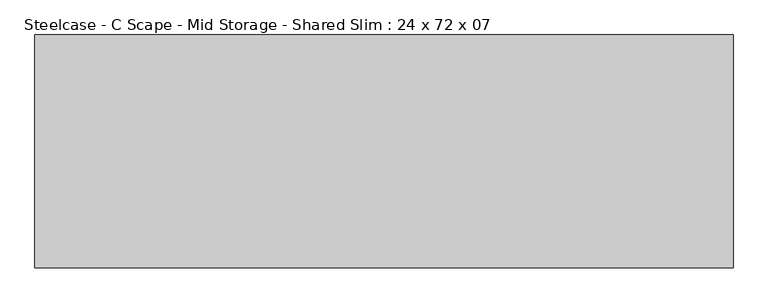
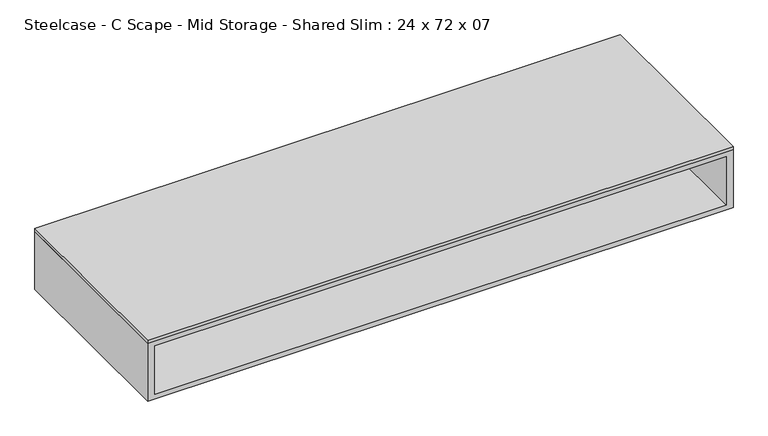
"""IFC4 building model written with IfcOpenShell, lengths in millimetres: furniture geometry, Steelcase - C Scape - Mid Storage - Shared Slim : 24 x 72 x 07."""

import ifcopenshell
import ifcopenshell.guid

model = None  # the IFC model being written
_history = None  # IfcOwnerHistory: only IFC2X3 demands one
_inside = {}  # id of a spatial element -> (the spatial element, [elements in it])
_under = {}  # id of a project, library or spatial element -> (it, [spatial elements below it])
_declared = {}  # id of a project -> (the project, [libraries it declares])
_typed = {}  # id of a type object -> (the type object, [elements of that type])
_made_of = {}  # id of a material, layer set ... -> (it, [elements and type objects made of it])


def new_model(schema):
    """Start an empty IFC model of exactly this schema.

    Asked for "IFC4X3", IfcOpenShell would pick the latest addendum, in which some entities
    have other attributes; the version numbers below select the first issue.
    IFC2X3 requires an IfcOwnerHistory on every rooted entity: one is made here for all.
    """
    global model, _history
    if schema == "IFC4X3":
        model = ifcopenshell.file(schema_version=(4, 3, 0, 0))
    else:
        model = ifcopenshell.file(schema=schema)
    _inside.clear()
    _under.clear()
    _declared.clear()
    _typed.clear()
    _made_of.clear()
    _history = None
    if model.schema == "IFC2X3":
        org = make("IfcOrganization", Name="unknown")
        user = make(
            "IfcPersonAndOrganization",
            ThePerson=make("IfcPerson", FamilyName="unknown"),
            TheOrganization=org,
        )
        app = make(
            "IfcApplication",
            ApplicationDeveloper=org,
            Version="unknown",
            ApplicationFullName="unknown",
            ApplicationIdentifier="unknown",
        )
        _history = make(
            "IfcOwnerHistory",
            OwningUser=user,
            OwningApplication=app,
            ChangeAction="ADDED",
            CreationDate=0,
        )
    return model


def make(cls, **values):
    """One entity of the class cls with the attributes given. An attribute that is None is left unset."""
    return model.create_entity(
        cls, **{name: value for name, value in values.items() if value is not None}
    )


def rooted(cls, **values):
    """An entity with a GlobalId (a new one), such as an element, a storey or a relation."""
    return make(cls, GlobalId=ifcopenshell.guid.new(), OwnerHistory=_history, **values)


def si_unit(unit_type, name, prefix=None):
    """IfcSIUnit, for example si_unit("LENGTHUNIT", "METRE", prefix="MILLI")."""
    return make("IfcSIUnit", UnitType=unit_type, Prefix=prefix, Name=name)


def assignment(units):
    """IfcUnitAssignment: the units of a project."""
    return None if units is None else make("IfcUnitAssignment", Units=units)


def point(xyz):
    """IfcCartesianPoint."""
    return None if xyz is None else make("IfcCartesianPoint", Coordinates=xyz)


def direction(xyz):
    """IfcDirection."""
    return None if xyz is None else make("IfcDirection", DirectionRatios=xyz)


def frame(location, z_axis=None, x_axis=None):
    """IfcAxis2Placement3D, a coordinate frame: its origin and axes. An axis left out is left unset."""
    return make(
        "IfcAxis2Placement3D",
        Location=point(location),
        Axis=direction(z_axis),
        RefDirection=direction(x_axis),
    )


def origin():
    """The frame at (0, 0, 0) with its axes left unset."""
    return frame((0.0, 0.0, 0.0))


def place(relative_to, where):
    """IfcLocalPlacement: puts the frame where relative to a parent placement (None: the world)."""
    return make(
        "IfcLocalPlacement", PlacementRelTo=relative_to, RelativePlacement=where
    )


def context(
    kind, dimensions, precision=None, world=None, true_north=None, identifier=None
):
    """IfcGeometricRepresentationContext, for example the 3D "Model" context."""
    return make(
        "IfcGeometricRepresentationContext",
        ContextIdentifier=identifier,
        ContextType=kind,
        CoordinateSpaceDimension=dimensions,
        Precision=precision,
        WorldCoordinateSystem=world,
        TrueNorth=true_north,
    )


def project(units=None, contexts=None):
    """IfcProject with its units and contexts."""
    return rooted(
        "IfcProject",
        Name="project",
        RepresentationContexts=contexts,
        UnitsInContext=assignment(units),
    )


def spatial(cls, under=None, at=None, **own):
    """A site, building, storey or space (cls), placed at a placement, below another one or the project."""
    s = rooted(cls, ObjectPlacement=at, **own)
    if under is not None:
        _under.setdefault(under.id(), (under, []))[1].append(s)
    return s


def polyline(points):
    """IfcPolyline through the points."""
    return make("IfcPolyline", Points=[point(p) for p in points])


def outline(outer, holes=None, kind="AREA"):
    """IfcArbitraryClosedProfileDef: a profile drawn as a closed curve; with holes, ...WithVoids."""
    if holes is None:
        return make("IfcArbitraryClosedProfileDef", ProfileType=kind, OuterCurve=outer)
    return make(
        "IfcArbitraryProfileDefWithVoids",
        ProfileType=kind,
        OuterCurve=outer,
        InnerCurves=holes,
    )


def extrude(swept, where, along, depth):
    """IfcExtrudedAreaSolid: the profile swept, set in the frame where, extruded along a direction by depth."""
    return make(
        "IfcExtrudedAreaSolid",
        SweptArea=swept,
        Position=where,
        ExtrudedDirection=direction(along),
        Depth=depth,
    )


def shape(context_of_items, identifier, shape_type, items):
    """IfcShapeRepresentation: the items that make up one representation, for example the "Body"."""
    return make(
        "IfcShapeRepresentation",
        ContextOfItems=context_of_items,
        RepresentationIdentifier=identifier,
        RepresentationType=shape_type,
        Items=items,
    )


def source(mapping_origin, context_of_items, identifier, shape_type, items):
    """IfcRepresentationMap: a shape defined once, which mapped items show again and again."""
    return make(
        "IfcRepresentationMap",
        MappingOrigin=mapping_origin,
        MappedRepresentation=shape(context_of_items, identifier, shape_type, items),
    )


def transform(
    local_origin,
    x_axis=None,
    y_axis=None,
    z_axis=None,
    scale=None,
    scale2=None,
    scale3=None,
    uniform=True,
):
    """IfcCartesianTransformationOperator3D, or its non-uniform kind. x_axis, y_axis, z_axis: its Axis1, 2, 3."""
    if uniform:
        return make(
            "IfcCartesianTransformationOperator3D",
            Axis1=direction(x_axis),
            Axis2=direction(y_axis),
            LocalOrigin=point(local_origin),
            Scale=scale,
            Axis3=direction(z_axis),
        )
    return make(
        "IfcCartesianTransformationOperator3DnonUniform",
        Axis1=direction(x_axis),
        Axis2=direction(y_axis),
        LocalOrigin=point(local_origin),
        Scale=scale,
        Axis3=direction(z_axis),
        Scale2=scale2,
        Scale3=scale3,
    )


def mapped(mapping_source, mapping_target):
    """IfcMappedItem: shows the shape of a source again, moved by a transform."""
    return make(
        "IfcMappedItem", MappingSource=mapping_source, MappingTarget=mapping_target
    )


def made_of(thing, what):
    """Note that an element or type object is made of a material, layer set ...; save() writes the relation."""
    if what is not None:
        _made_of.setdefault(what.id(), (what, []))[1].append(thing)
    return thing


def element(
    cls,
    number,
    at=None,
    inside=None,
    cuts=None,
    type_object=None,
    material=None,
    context=None,
    identifier="Body",
    shape_type=None,
    held_by="IfcProductDefinitionShape",
    body=None,
    shapes=None,
    **own,
):
    """One element of the class cls, such as IfcWall. Its Tag is "e" and its number.

    at: its placement. inside: the storey or other place that contains it. cuts: it is an
    opening in that element (IfcRelVoidsElement). A single representation is given by context,
    identifier, shape_type and body (its items); several are given by shapes. held_by: the class
    of the entity that holds the representations. save() writes the other relations.
    """
    e = rooted(cls, Tag="e%d" % number, ObjectPlacement=at, **own)
    if body is not None:
        shapes = [shape(context, identifier, shape_type, body)]
    if shapes is not None:
        e.Representation = make(held_by, Representations=shapes)
    if inside is not None:
        _inside.setdefault(inside.id(), (inside, []))[1].append(e)
    if cuts is not None:
        rooted(
            "IfcRelVoidsElement", RelatingBuildingElement=cuts, RelatedOpeningElement=e
        )
    if type_object is not None:
        _typed.setdefault(type_object.id(), (type_object, []))[1].append(e)
    return made_of(e, material)


def aggregate(whole, parts):
    """IfcRelAggregates: a whole, such as a stair, and the parts it consists of."""
    return rooted("IfcRelAggregates", RelatingObject=whole, RelatedObjects=parts)


def save(model, path):
    """Write the relations noted so far, then the file.

    IfcRelAggregates (storeys below a building ...), IfcRelContainedInSpatialStructure (elements
    in a storey), IfcRelDefinesByType, IfcRelAssociatesMaterial and IfcRelDeclares: one each for
    every whole, place, type object, material and project.
    """
    for whole, parts in _under.values():
        aggregate(whole, parts)
    for where, things in _inside.values():
        rooted(
            "IfcRelContainedInSpatialStructure",
            RelatedElements=things,
            RelatingStructure=where,
        )
    for kind, things in _typed.values():
        rooted("IfcRelDefinesByType", RelatedObjects=things, RelatingType=kind)
    for what, things in _made_of.values():
        rooted("IfcRelAssociatesMaterial", RelatedObjects=things, RelatingMaterial=what)
    for by, libraries in _declared.values():
        rooted("IfcRelDeclares", RelatingContext=by, RelatedDefinitions=libraries)
    model.write(path)


def steelcase_c_scape_mid_storage_shared_slim_24_x_72_x_07_319cdfb0(model_context):
    return source(origin(), model_context, "Body", "SweptSolid", [
        extrude(outline(polyline([(1828.8, 304.8), (1828.8, -304.8), (0.0, -304.8), (0.0, 304.8), (1828.8, 304.8)])), frame((0.0, 0.0, 1028.7), z_axis=(0.0, 0.0, 1.0), x_axis=(1.0, 0.0, 0.0)), (0.0, 0.0, 1.0), 10.16),
        extrude(outline(polyline([(1806.702, 3.1751841), (1806.702, -3.1744283), (21.9711633, -3.1744283), (21.9711633, 3.1751841), (1806.702, 3.1751841)])), frame((0.0, 0.0, 853.4399855), z_axis=(0.0, 0.0, 1.0), x_axis=(1.0, 0.0, 0.0)), (0.0, 0.0, 1.0), 160.0200145),
        extrude(outline(polyline([(1028.7, 1828.8), (1028.7, 0.0), (838.2, 0.0), (838.2, 1828.8), (1028.7, 1828.8)]), holes=[polyline([(1013.46, 1806.702), (853.4399855, 1806.702), (853.4399855, 21.9711633), (1013.46, 21.9711633), (1013.46, 1806.702)])]), frame((0.0, -304.8, 0.0), z_axis=(0.0, 1.0, 0.0), x_axis=(0.0, 0.0, 1.0)), (0.0, 0.0, 1.0), 609.6),
    ])


if __name__ == "__main__":
    model = new_model("IFC4")
    model_context = context("Model", 3, world=origin())
    ifc_project = project(units=[si_unit("LENGTHUNIT", "METRE", prefix="MILLI")], contexts=[model_context])
    site = spatial("IfcSite", under=ifc_project)
    building = spatial("IfcBuilding", under=site)
    placement = place(None, origin())
    steelcase_c_scape_mid_storage_shared_slim_24_x_72_x_07_shape = steelcase_c_scape_mid_storage_shared_slim_24_x_72_x_07_319cdfb0(model_context)
    element("IfcFurniture", 1, ObjectType="Steelcase - C Scape - Mid Storage - Shared Slim : 24 x 72 x 07", at=placement, inside=building, context=model_context, shape_type="MappedRepresentation", body=[
        mapped(steelcase_c_scape_mid_storage_shared_slim_24_x_72_x_07_shape, transform((0.0, 0.0, 0.0), x_axis=(1.0, 0.0, 0.0), y_axis=(0.0, 1.0, 0.0), z_axis=(0.0, 0.0, 1.0))),
    ])
    save(model, "model.ifc")
